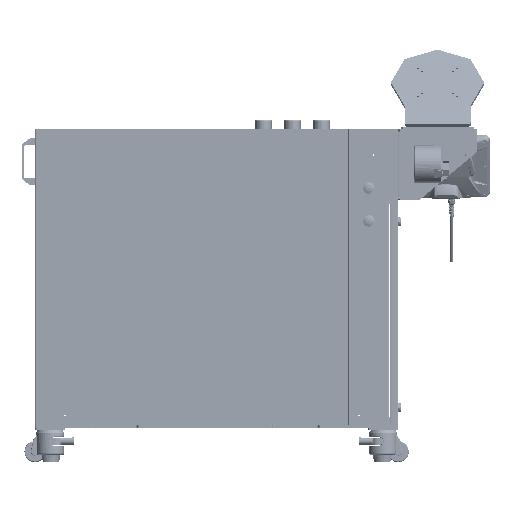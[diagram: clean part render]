
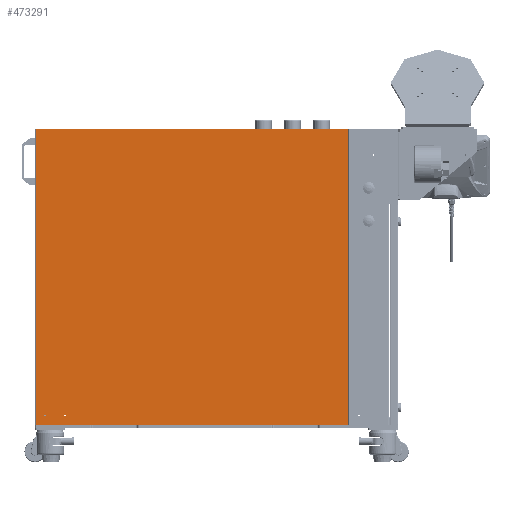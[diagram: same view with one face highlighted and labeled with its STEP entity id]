
A CAD part, top view. The second image highlights one B-rep face of the part: STEP entity #473291.
In plain terms, the highlighted planar face has unit normal (0, 0, 1).
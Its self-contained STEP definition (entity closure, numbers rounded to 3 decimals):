
#3059 = CARTESIAN_POINT ( 'NONE',  ( 417.835, 873.272, 308.488 ) ) ;
#4528 = DIRECTION ( 'NONE',  ( 1., 0., 0. ) ) ;
#8963 = CARTESIAN_POINT ( 'NONE',  ( -54.965, 425.472, 308.488 ) ) ;
#13894 = CARTESIAN_POINT ( 'NONE',  ( 417.835, -22.328, 308.488 ) ) ;
#21900 = ORIENTED_EDGE ( 'NONE', *, *, #141108, .F. ) ;
#25550 = CIRCLE ( 'NONE', #246967, 2.5 ) ;
#49762 = CARTESIAN_POINT ( 'NONE',  ( 417.835, -22.328, 308.488 ) ) ;
#62906 = AXIS2_PLACEMENT_3D ( 'NONE', #86292, #136306, #138401 ) ;
#65454 = EDGE_CURVE ( 'NONE', #242612, #175482, #360471, .T. ) ;
#68507 = EDGE_LOOP ( 'NONE', ( #21900, #451619 ) ) ;
#86292 = CARTESIAN_POINT ( 'NONE',  ( -439.965, 5.472, 308.488 ) ) ;
#100825 = DIRECTION ( 'NONE',  ( 0., -1., 0. ) ) ;
#112494 = LINE ( 'NONE', #451661, #291758 ) ;
#120890 = CARTESIAN_POINT ( 'NONE',  ( -527.765, 873.272, 308.488 ) ) ;
#131383 = EDGE_CURVE ( 'NONE', #290238, #423235, #315435, .T. ) ;
#136306 = DIRECTION ( 'NONE',  ( 0., 0., 1. ) ) ;
#138401 = DIRECTION ( 'NONE',  ( 1., 0., 0. ) ) ;
#139087 = CIRCLE ( 'NONE', #62906, 2.5 ) ;
#139547 = EDGE_LOOP ( 'NONE', ( #410504, #202511 ) ) ;
#141108 = EDGE_CURVE ( 'NONE', #267710, #301550, #184141, .T. ) ;
#168804 = DIRECTION ( 'NONE',  ( 1., 0., 0. ) ) ;
#175482 = VERTEX_POINT ( 'NONE', #120890 ) ;
#184141 = CIRCLE ( 'NONE', #464404, 2.5 ) ;
#184457 = PLANE ( 'NONE',  #425928 ) ;
#190789 = ORIENTED_EDGE ( 'NONE', *, *, #501176, .T. ) ;
#200547 = LINE ( 'NONE', #49762, #551464 ) ;
#202511 = ORIENTED_EDGE ( 'NONE', *, *, #495582, .F. ) ;
#218815 = CARTESIAN_POINT ( 'NONE',  ( -527.765, -22.328, 308.488 ) ) ;
#231141 = ORIENTED_EDGE ( 'NONE', *, *, #460231, .T. ) ;
#242612 = VERTEX_POINT ( 'NONE', #524609 ) ;
#246967 = AXIS2_PLACEMENT_3D ( 'NONE', #486985, #536982, #439001 ) ;
#253376 = CARTESIAN_POINT ( 'NONE',  ( -437.465, 5.472, 308.488 ) ) ;
#267710 = VERTEX_POINT ( 'NONE', #601011 ) ;
#272680 = VERTEX_POINT ( 'NONE', #279293 ) ;
#278171 = CARTESIAN_POINT ( 'NONE',  ( -499.965, 5.472, 308.488 ) ) ;
#279293 = CARTESIAN_POINT ( 'NONE',  ( -442.465, 5.472, 308.488 ) ) ;
#290238 = VERTEX_POINT ( 'NONE', #600419 ) ;
#291758 = VECTOR ( 'NONE', #543459, 1000. ) ;
#292654 = DIRECTION ( 'NONE',  ( 0., 0., 1. ) ) ;
#293737 = CIRCLE ( 'NONE', #307995, 2.5 ) ;
#301550 = VERTEX_POINT ( 'NONE', #565433 ) ;
#307995 = AXIS2_PLACEMENT_3D ( 'NONE', #278171, #292654, #4528 ) ;
#315435 = LINE ( 'NONE', #218815, #584280 ) ;
#333285 = DIRECTION ( 'NONE',  ( 1., 0., 0. ) ) ;
#335801 = DIRECTION ( 'NONE',  ( 0., 1., 0. ) ) ;
#340954 = DIRECTION ( 'NONE',  ( 0., 0., 1. ) ) ;
#341274 = DIRECTION ( 'NONE',  ( -1., 0., 0. ) ) ;
#358599 = EDGE_CURVE ( 'NONE', #272680, #442378, #139087, .T. ) ;
#360471 = LINE ( 'NONE', #3059, #607100 ) ;
#360958 = EDGE_CURVE ( 'NONE', #301550, #267710, #293737, .T. ) ;
#383342 = DIRECTION ( 'NONE',  ( 0., 0., 1. ) ) ;
#396368 = FACE_BOUND ( 'NONE', #139547, .T. ) ;
#410504 = ORIENTED_EDGE ( 'NONE', *, *, #358599, .F. ) ;
#422992 = CARTESIAN_POINT ( 'NONE',  ( -499.965, 5.472, 308.488 ) ) ;
#423235 = VERTEX_POINT ( 'NONE', #13894 ) ;
#425928 = AXIS2_PLACEMENT_3D ( 'NONE', #8963, #340954, #100825 ) ;
#439001 = DIRECTION ( 'NONE',  ( 1., 0., 0. ) ) ;
#442378 = VERTEX_POINT ( 'NONE', #253376 ) ;
#451619 = ORIENTED_EDGE ( 'NONE', *, *, #360958, .F. ) ;
#451661 = CARTESIAN_POINT ( 'NONE',  ( -527.765, 873.272, 308.488 ) ) ;
#460231 = EDGE_CURVE ( 'NONE', #175482, #290238, #112494, .T. ) ;
#464404 = AXIS2_PLACEMENT_3D ( 'NONE', #422992, #383342, #333285 ) ;
#473291 = ADVANCED_FACE ( 'NONE', ( #568199, #396368, #493290 ), #184457, .T. ) ;
#486985 = CARTESIAN_POINT ( 'NONE',  ( -439.965, 5.472, 308.488 ) ) ;
#493290 = FACE_BOUND ( 'NONE', #68507, .T. ) ;
#495582 = EDGE_CURVE ( 'NONE', #442378, #272680, #25550, .T. ) ;
#501176 = EDGE_CURVE ( 'NONE', #423235, #242612, #200547, .T. ) ;
#505635 = ORIENTED_EDGE ( 'NONE', *, *, #65454, .T. ) ;
#524609 = CARTESIAN_POINT ( 'NONE',  ( 417.835, 873.272, 308.488 ) ) ;
#536982 = DIRECTION ( 'NONE',  ( 0., 0., 1. ) ) ;
#543459 = DIRECTION ( 'NONE',  ( 0., -1., 0. ) ) ;
#551464 = VECTOR ( 'NONE', #335801, 1000. ) ;
#565029 = ORIENTED_EDGE ( 'NONE', *, *, #131383, .T. ) ;
#565433 = CARTESIAN_POINT ( 'NONE',  ( -497.465, 5.472, 308.488 ) ) ;
#568199 = FACE_OUTER_BOUND ( 'NONE', #614538, .T. ) ;
#584280 = VECTOR ( 'NONE', #168804, 1000. ) ;
#600419 = CARTESIAN_POINT ( 'NONE',  ( -527.765, -22.328, 308.488 ) ) ;
#601011 = CARTESIAN_POINT ( 'NONE',  ( -502.465, 5.472, 308.488 ) ) ;
#607100 = VECTOR ( 'NONE', #341274, 1000. ) ;
#614538 = EDGE_LOOP ( 'NONE', ( #190789, #505635, #231141, #565029 ) ) ;
